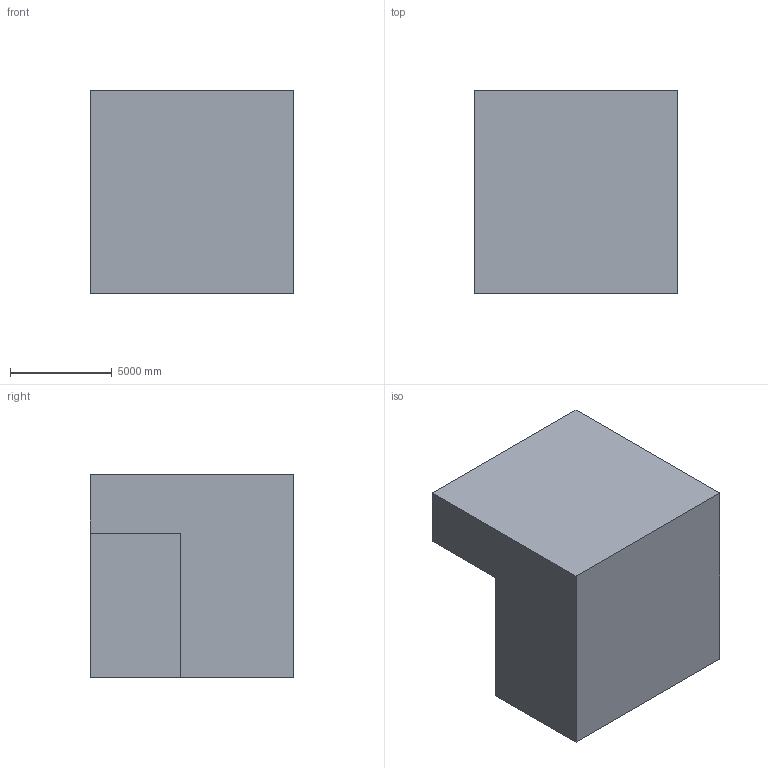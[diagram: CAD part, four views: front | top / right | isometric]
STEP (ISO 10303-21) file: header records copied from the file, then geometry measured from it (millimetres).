
FILE_DESCRIPTION (( 'STEP AP203' ), '1' );
FILE_NAME ('27.STEP', '2022-08-31T11:12:29', ( 'user' ), ( '' ), 'SwSTEP 2.0', 'SolidWorks 2021', '' );
FILE_SCHEMA (( 'CONFIG_CONTROL_DESIGN' ));
Length unit declared in the file: centimetre
Products named in the file (1): 27
Bounding box: 10000 x 10000 x 10000 mm (x, y, z)
Volume: 801764498743.8 mm3; surface area: 600000000 mm2
Topology: 1 solids, 1 shells, 12 faces, 30 edges, 20 vertices
Faces by surface type: plane 12
Entity records: 431 total; most frequent: CARTESIAN_POINT 63, ORIENTED_EDGE 60, DIRECTION 56, EDGE_CURVE 30, VECTOR 30, LINE 30, VERTEX_POINT 20, AXIS2_PLACEMENT_3D 13
